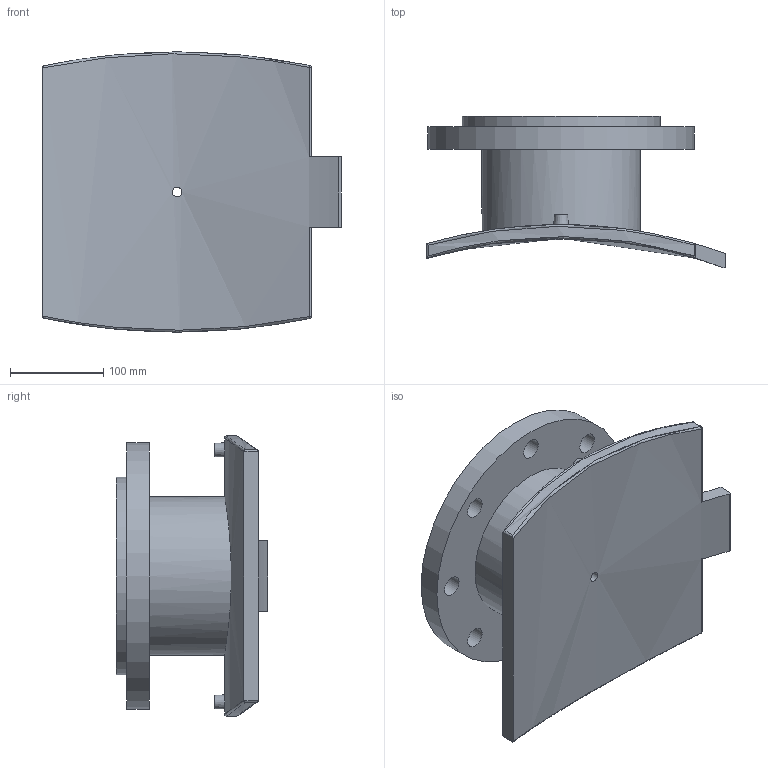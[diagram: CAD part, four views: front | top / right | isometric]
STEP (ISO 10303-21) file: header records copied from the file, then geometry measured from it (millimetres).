
FILE_DESCRIPTION(/* description */ ('PLASSON FLANGED BRANCH SADDLE 1000x150'),/* implementation_level */ '2;1');
FILE_NAME(/* name */ 'C:\Dropbox\KIMPROJECTS-Inventor 2019\99-16-3568-Processing\ElectroFusion Fittings\495904_495903\stp\4959031000150T.stp',/* time_stamp */ '2024-04-03T21:09:13+02:00',/* author */ ('KIM'),/* organization */ (''),/* preprocessor_version */ 'ST-DEVELOPER v17.2',/* originating_system */ 'Autodesk Inventor 2019',/* authorisation */ '');
FILE_SCHEMA (('AUTOMOTIVE_DESIGN { 1 0 10303 214 3 1 1 }'));
Length unit declared in the file: millimetre
Products named in the file (1): 4959031000150T
Bounding box: 320 x 162.01 x 299.98 mm (x, y, z)
Volume: 3458360 mm3; surface area: 413163.8 mm2
Topology: 1 solids, 1 shells, 58 faces, 151 edges, 118 vertices
Faces by surface type: cylinder 31, plane 17, sphere 4, bspline 4, cone 2
Full cylindrical faces by diameter (mm): 4 x2, 10 x2, 10.4 x1, 16 x1, 22 x8, 131 x1, 169.6 x1, 212 x1, 285 x1
Entity records: 2342 total; most frequent: CARTESIAN_POINT 846, DIRECTION 297, ORIENTED_EDGE 274, EDGE_CURVE 137, AXIS2_PLACEMENT_3D 125, VERTEX_POINT 92, EDGE_LOOP 87, CIRCLE 70
